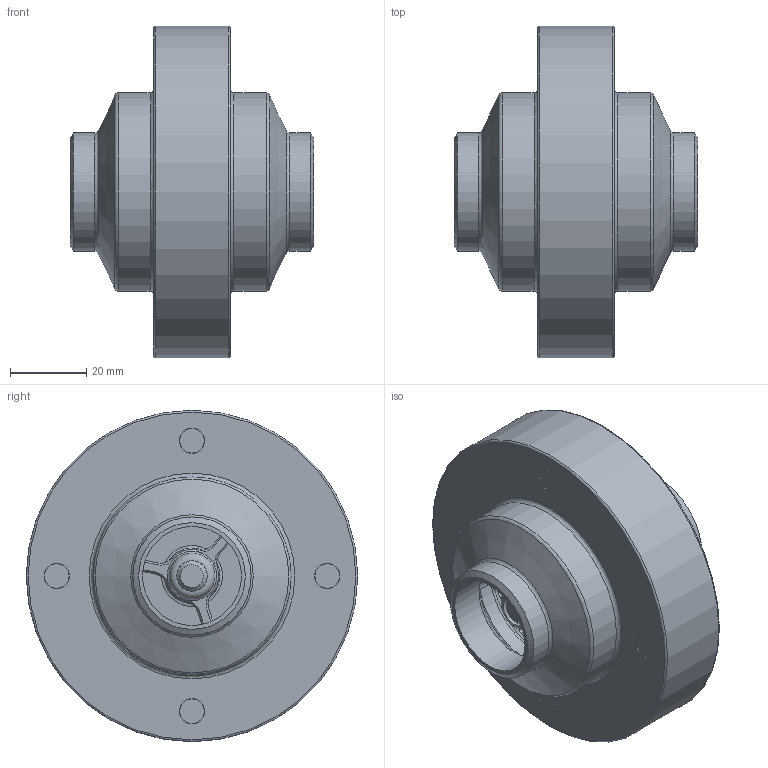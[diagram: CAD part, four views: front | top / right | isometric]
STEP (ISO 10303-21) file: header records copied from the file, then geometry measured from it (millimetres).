
FILE_DESCRIPTION((''),'2;1');
FILE_NAME('K:\2013 konstrukce\5xxxx\50800-ZPĚTNÝ VENTIL S-S\5080D-025.stp','2021-01-22T07:56:15',('konstrukce3'),(''),'Autodesk Inventor 2010','Autodesk Inventor 2010','');
FILE_SCHEMA(('AUTOMOTIVE_DESIGN { 1 0 10303 214 1 1 1 1 }'));
Length unit declared in the file: millimetre
Products named in the file (1): Součást5
Bounding box: 64 x 87 x 87 mm (x, y, z)
Volume: 122267.5 mm3; surface area: 39396.3 mm2
Topology: 11 solids, 11 shells, 238 faces, 510 edges, 301 vertices
Faces by surface type: plane 77, cylinder 46, cone 42, bspline 37, torus 36
Full cylindrical faces by diameter (mm): 8 x5, 12 x3, 13 x4, 25.919 x1, 26 x2, 31 x2, 34 x1, 48 x1, 52 x4, 59 x1, 87 x1
Entity records: 8276 total; most frequent: CARTESIAN_POINT 3370, DIRECTION 1002, ORIENTED_EDGE 786, AXIS2_PLACEMENT_3D 444, EDGE_CURVE 393, EDGE_LOOP 363, VERTEX_POINT 277, STYLED_ITEM 248
